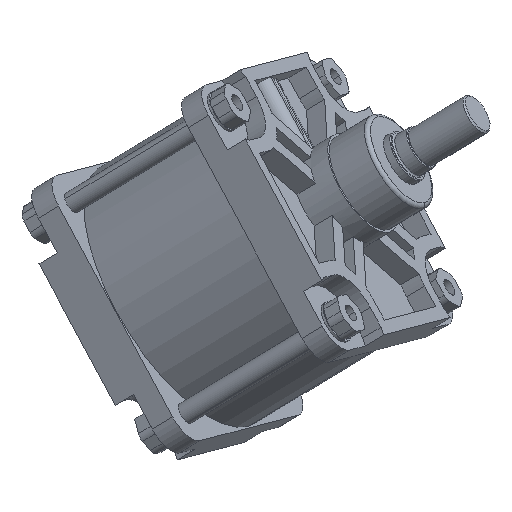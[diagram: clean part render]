
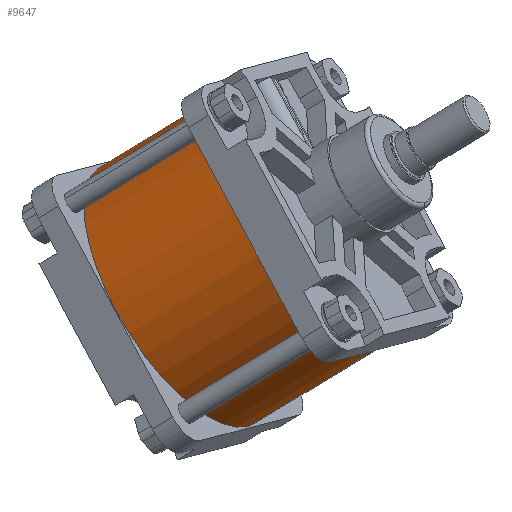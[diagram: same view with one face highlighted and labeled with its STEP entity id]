
A CAD part, top view. The second image highlights one B-rep face of the part: STEP entity #9647.
In plain terms, the highlighted cylindrical face has radius 168 mm (diameter 336 mm), a partial arc.
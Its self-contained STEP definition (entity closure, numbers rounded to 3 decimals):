
#8886=CARTESIAN_POINT('Vertex',(0.,168.,0.)) ;
#8888=CARTESIAN_POINT('Vertex',(0.,-168.,0.)) ;
#8891=CARTESIAN_POINT('Axis2P3D Location',(0.,0.,0.)) ;
#9605=CARTESIAN_POINT('Axis2P3D Location',(-93.,0.,0.)) ;
#9610=CARTESIAN_POINT('Line Origine',(-93.,168.,0.)) ;
#9614=CARTESIAN_POINT('Vertex',(-186.,168.,0.)) ;
#9617=CARTESIAN_POINT('Line Origine',(-93.,-168.,0.)) ;
#9621=CARTESIAN_POINT('Vertex',(-186.,-168.,0.)) ;
#9636=CARTESIAN_POINT('Axis2P3D Location',(-186.,0.,0.)) ;
#8892=DIRECTION('Axis2P3D Direction',(1.,0.,0.)) ;
#9606=DIRECTION('Axis2P3D Direction',(-1.,-0.,0.)) ;
#9607=DIRECTION('Axis2P3D XDirection',(0.,-1.,0.)) ;
#9611=DIRECTION('Vector Direction',(-1.,0.,0.)) ;
#9618=DIRECTION('Vector Direction',(-1.,0.,0.)) ;
#9637=DIRECTION('Axis2P3D Direction',(-1.,-0.,0.)) ;
#8893=AXIS2_PLACEMENT_3D('Circle Axis2P3D',#8891,#8892,$) ;
#9608=AXIS2_PLACEMENT_3D('Cylinder Axis2P3D',#9605,#9606,#9607) ;
#9638=AXIS2_PLACEMENT_3D('Circle Axis2P3D',#9636,#9637,$) ;
#9642=ORIENTED_EDGE('',*,*,#9623,.F.) ;
#9643=ORIENTED_EDGE('',*,*,#8895,.T.) ;
#9644=ORIENTED_EDGE('',*,*,#9616,.T.) ;
#9645=ORIENTED_EDGE('',*,*,#9640,.F.) ;
#9612=VECTOR('Line Direction',#9611,1.) ;
#9619=VECTOR('Line Direction',#9618,1.) ;
#9647=ADVANCED_FACE('PartBody',(#9646),#9609,.T.) ;
#8894=CIRCLE('generated circle',#8893,168.) ;
#9639=CIRCLE('generated circle',#9638,168.) ;
#9609=CYLINDRICAL_SURFACE('generated cylinder',#9608,168.) ;
#8895=EDGE_CURVE('',#8889,#8887,#8894,.F.) ;
#9616=EDGE_CURVE('',#8887,#9615,#9613,.T.) ;
#9623=EDGE_CURVE('',#8889,#9622,#9620,.T.) ;
#9640=EDGE_CURVE('',#9622,#9615,#9639,.T.) ;
#9641=EDGE_LOOP('',(#9642,#9643,#9644,#9645)) ;
#9646=FACE_OUTER_BOUND('',#9641,.T.) ;
#9613=LINE('Line',#9610,#9612) ;
#9620=LINE('Line',#9617,#9619) ;
#8887=VERTEX_POINT('',#8886) ;
#8889=VERTEX_POINT('',#8888) ;
#9615=VERTEX_POINT('',#9614) ;
#9622=VERTEX_POINT('',#9621) ;
